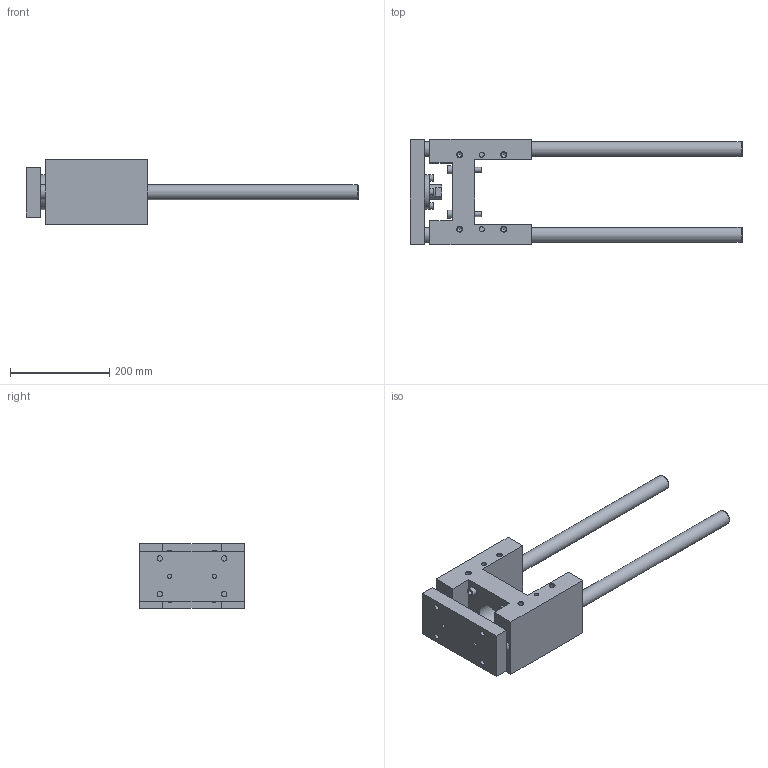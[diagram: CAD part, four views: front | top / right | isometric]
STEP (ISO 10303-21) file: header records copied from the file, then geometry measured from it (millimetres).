
FILE_DESCRIPTION( ( 'STEP AP214' ), '1' );
FILE_NAME( 'U:/Etudes/Top Solid/BIBLIO 3D AVM/TOP/PNEUMATIQUE/GUIDAGES/Type 32 (en H)/R_Renforcée/329R7130.step', '2005-05-27T09:22:09', ( ' ' ), ( ' ' ), 'XStep 1.0', ' ', ' ' );
FILE_SCHEMA( ( 'automotive_design' ) );
Length unit declared in the file: metre
Products named in the file (2): 1; 2
Bounding box: 669 x 213 x 129 mm (x, y, z)
Volume: 4160321.7 mm3; surface area: 456978.9 mm2
Topology: 2 solids, 7 shells, 207 faces, 460 edges, 303 vertices
Faces by surface type: plane 118, cylinder 68, cone 21
Full cylindrical faces by diameter (mm): 8 x10, 8.5 x4, 10 x10, 10.106 x12, 11 x8, 13 x4, 16 x4, 18 x4, 18.376 x2, 29 x1, 30 x4, 32 x1, 42 x1, 45 x1, 55 x1, 70 x1
Entity records: 6989 total; most frequent: CARTESIAN_POINT 1089, DIRECTION 880, ORIENTED_EDGE 678, EDGE_LOOP 360, AXIS2_PLACEMENT_3D 340, EDGE_CURVE 339, VERTEX_POINT 277, FACE_OUTER_BOUND 275
